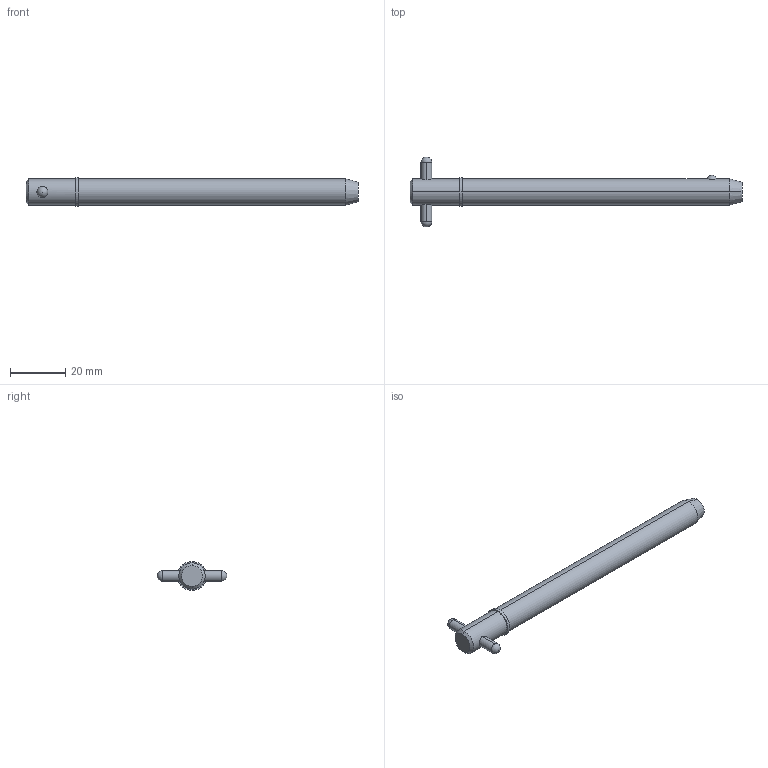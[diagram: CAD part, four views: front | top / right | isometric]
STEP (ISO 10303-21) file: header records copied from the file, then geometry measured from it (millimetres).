
FILE_DESCRIPTION (( 'STEP AP203' ), '1' );
FILE_NAME ('33018.W3735.step', '2024-11-19T17:11:40', ( '' ), ( '' ), 'SwSTEP 2.0', 'SolidWorks 2019', '' );
FILE_SCHEMA (( 'CONFIG_CONTROL_DESIGN' ));
Length unit declared in the file: millimetre
Products named in the file (3): 33018.W3735; Part1_33018.W3735; Part2_33018.W3735
Assembly tree (2 placements, depth 2):
  33018.W3735
    Part1_33018.W3735
    Part2_33018.W3735
Bounding box: 120.65 x 25.4 x 10.48 mm (x, y, z)
Volume: 8724.5 mm3; surface area: 4136.6 mm2
Topology: 2 solids, 2 shells, 22 faces, 47 edges, 30 vertices
Faces by surface type: cylinder 10, sphere 4, cone 4, plane 4
Entity records: 1023 total; most frequent: CARTESIAN_POINT 266, DIRECTION 110, ORIENTED_EDGE 82, AXIS2_PLACEMENT_3D 48, EDGE_CURVE 41, EDGE_LOOP 27, VERTEX_POINT 26, PERSON_AND_ORGANIZATION 26
